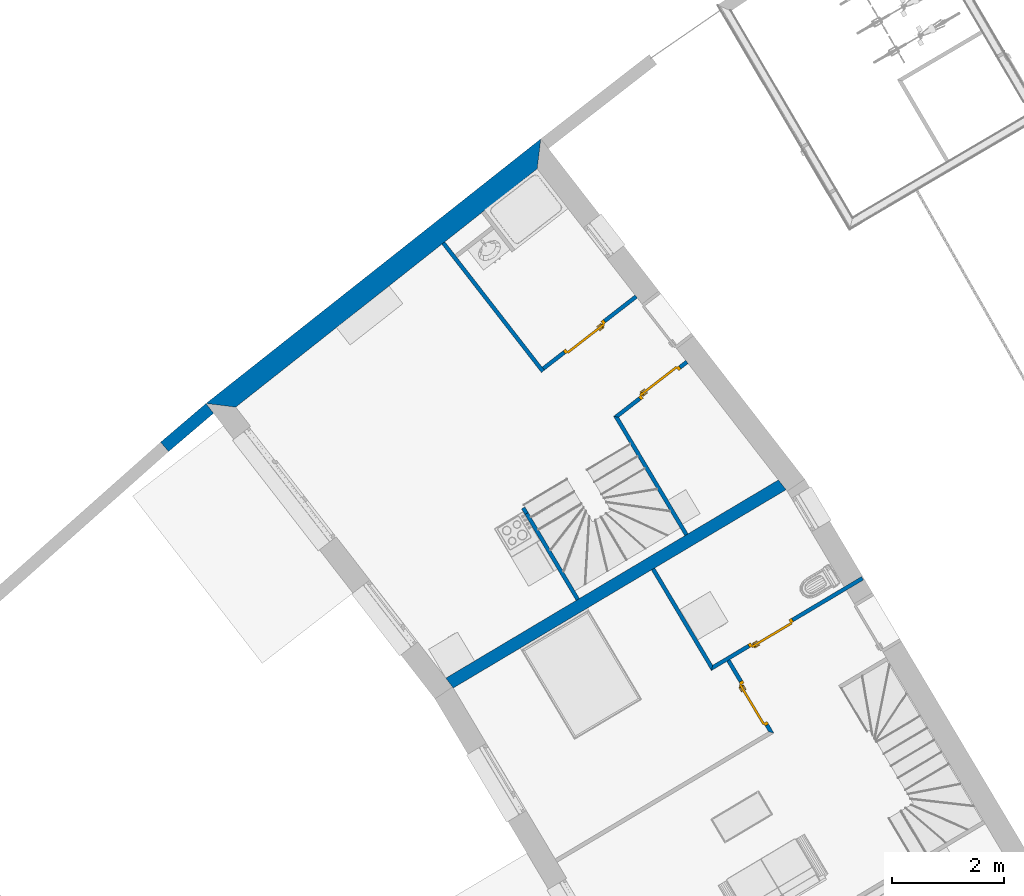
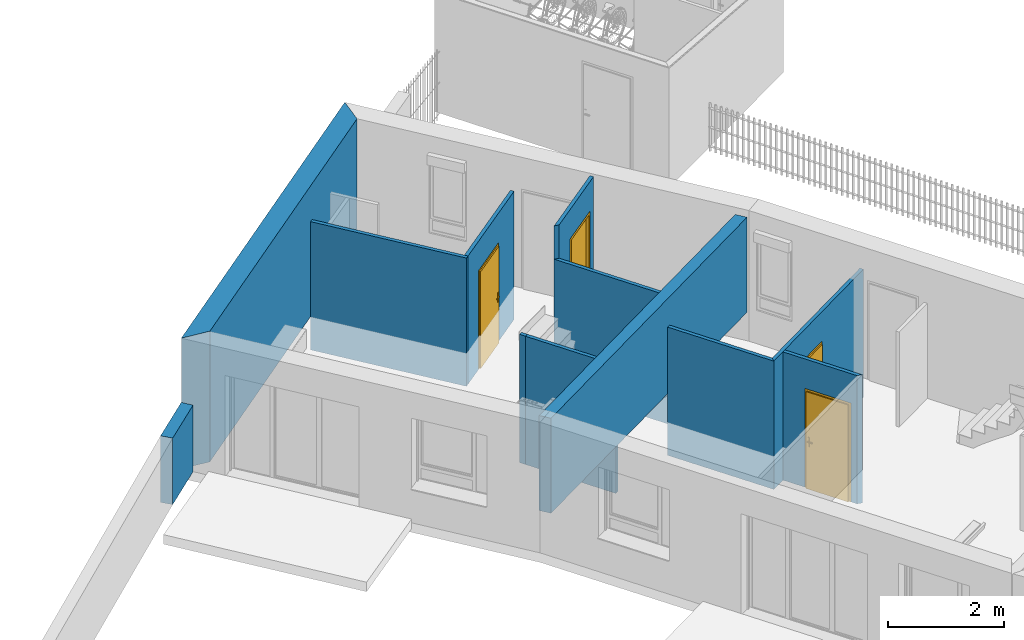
# One storey, part 43 of 195: 12 walls, 4 doors, 4 openings.
"""IFC2X3 building model written with IfcOpenShell, lengths in metres."""

from ifc_helpers import new_model, entity, si_unit, converted_unit, derived_unit, money_unit, direction, frame, origin_with_axes, origin_2d_with_axis, place, context, subcontext, project, spatial, polyline, rectangle, outline, extrude, faceted_brep, source, transform, mapped, material, layer, layer_set, layer_usage, type_object, element, fill, save


model = new_model("IFC2X3")

# Units and contexts
model_context = context("Model", 3, precision=1e-05, world=origin_with_axes(), true_north=direction((0.0, 1.0)))
body_context = subcontext(model_context, "Body", "Model", "MODEL_VIEW")
ifc_project = project(units=[si_unit("LENGTHUNIT", "METRE"), si_unit("AREAUNIT", "SQUARE_METRE"), si_unit("VOLUMEUNIT", "CUBIC_METRE"), converted_unit("PLANEANGLEUNIT", "DEGREE", entity("IfcPlaneAngleMeasure", 0.0174532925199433), si_unit("PLANEANGLEUNIT", "RADIAN"), dimensions=[0, 0, 0, 0, 0, 0, 0]), money_unit("CHF"), converted_unit("TIMEUNIT", "Year", entity("IfcTimeMeasure", 31557600.0), si_unit("TIMEUNIT", "SECOND"), dimensions=[0, 0, 1, 0, 0, 0, 0]), si_unit("MASSUNIT", "GRAM", prefix="KILO"), si_unit("THERMODYNAMICTEMPERATUREUNIT", "DEGREE_CELSIUS"), si_unit("LUMINOUSINTENSITYUNIT", "LUMEN"), si_unit("ENERGYUNIT", "JOULE", prefix="MEGA"), derived_unit("THERMALCONDUCTANCEUNIT", [(si_unit("POWERUNIT", "WATT"), 1), (si_unit("LENGTHUNIT", "METRE"), -1), (si_unit("THERMODYNAMICTEMPERATUREUNIT", "KELVIN"), -1)]), derived_unit("SPECIFICHEATCAPACITYUNIT", [(si_unit("ENERGYUNIT", "JOULE"), 1), (si_unit("MASSUNIT", "GRAM", prefix="KILO"), -1), (si_unit("THERMODYNAMICTEMPERATUREUNIT", "KELVIN"), -1)]), derived_unit("MASSDENSITYUNIT", [(si_unit("MASSUNIT", "GRAM", prefix="KILO"), 1), (si_unit("VOLUMEUNIT", "CUBIC_METRE"), -1)])], contexts=[model_context])

# Site, building, storey
site_placement = place(None, origin_with_axes())
site = spatial("IfcSite", under=ifc_project, at=site_placement, Name="Site", CompositionType="ELEMENT")
building_placement = place(site_placement, origin_with_axes())
building = spatial("IfcBuilding", under=site, at=building_placement, Name="Bâtiment", CompositionType="ELEMENT")
storey_placement = place(building_placement, origin_with_axes())
storey = spatial("IfcBuildingStorey", under=building, at=storey_placement, Name="rdc", CompositionType="ELEMENT", Elevation=0.0)

# Wall, opening, door
ifc_material_1 = material(Name="Hachure solide 268963992")
ifc_layer_1 = layer(ifc_material_1, 0.07, ventilated="UNKNOWN")
ifc_layer_set_1 = layer_set([ifc_layer_1], Name="Cloison 70 0826278243")
ifc_layer_usage_1 = layer_usage(ifc_layer_set_1, "AXIS2", "NEGATIVE", 0.0)
wall_type_1 = type_object("IfcWallType", Name="Cloison 70 0826278243 70", PredefinedType="NOTDEFINED")
wall_1_placement = place(storey_placement, frame((9541.640107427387, -1042.153181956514, 57.7), z_axis=(0.0, 0.0, 1.0), x_axis=(0.7902714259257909, 0.6127569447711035, 0.0)))
wall_1 = element("IfcWallStandardCase", 1, at=wall_1_placement, inside=storey, type_object=wall_type_1, material=ifc_layer_usage_1, Name="Mur-149", context=body_context, shape_type="SweptSolid", body=[
    extrude(outline(polyline([(0.06192714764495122, -0.06999999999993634), (1.632411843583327, -0.06999999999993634), (1.632411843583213, 0.0), (0.0, 0.0), (0.06192714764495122, -0.06999999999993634)])), origin_with_axes(), (0.0, 0.0, 1.0), 2.7),
])
opening_1_placement = place(wall_1_placement, frame((1.019052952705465, 0.0, 0.0), z_axis=(0.0, 0.0, 1.0), x_axis=(1.0, 0.0, 0.0)))
opening_1 = element("IfcOpeningElement", 2, at=opening_1_placement, cuts=wall_1, Name="Por-301", context=body_context, shape_type="SweptSolid", body=[
    extrude(rectangle(XDim=0.9099999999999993, YDim=2.079999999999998, at=origin_2d_with_axis()), frame((0.0, -0.07000000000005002, 1.039999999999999), z_axis=(0.0, 1.0, 0.0), x_axis=(1.0, 0.0, 0.0)), (0.0, 0.0, 1.0), 0.14),
])
door_style = type_object("IfcDoorStyle", Name="Porte_1v", ConstructionType="NOTDEFINED", OperationType="NOTDEFINED", ParameterTakesPrecedence=False, Sizeable=False)
shared_shape_1 = source(origin_with_axes(), body_context, "Body", "Brep", [
    faceted_brep([(0.455, 0.0, 0.0), (0.415, 0.0, 0.0), (0.415, 0.0, 2.04), (-0.415, 0.0, 2.04), (-0.415, 0.0, 0.0), (-0.455, 0.0, 0.0), (-0.455, 0.0, 2.08), (0.455, 0.0, 2.08), (0.455, -0.07, 0.0), (0.4, -0.07, 0.0), (0.4, -0.015, 0.0), (0.415, -0.015, 0.0), (0.415, -0.015, 2.04), (-0.415, -0.015, 2.04), (-0.415, -0.015, 0.0), (-0.4, -0.015, 0.0), (-0.4, -0.07, 0.0), (-0.455, -0.07, 0.0), (-0.455, -0.07, 2.08), (0.455, -0.07, 2.08), (-0.4, -0.07, 2.025), (0.4, -0.07, 2.025), (0.4, -0.015, 2.025), (-0.4, -0.015, 2.025)], [[[0, 1, 2, 3, 4, 5, 6, 7]], [[0, 8, 9, 10, 11, 1]], [[1, 11, 12, 2]], [[2, 12, 13, 3]], [[3, 13, 14, 4]], [[5, 4, 14, 15, 16, 17]], [[18, 6, 5, 17]], [[19, 7, 6, 18]], [[8, 0, 7, 19]], [[9, 8, 19, 18, 17, 16, 20, 21]], [[10, 9, 21, 22]], [[11, 10, 22, 23, 15, 14, 13, 12]], [[23, 20, 16, 15]], [[22, 21, 20, 23]]]),
    faceted_brep([(-0.35, -0.015, 0.9), (-0.39, -0.015, 0.9), (-0.39, -0.015, 1.1), (-0.35, -0.015, 1.1), (-0.35, -0.025, 0.9), (-0.39, -0.025, 0.9), (-0.39, -0.025, 1.1), (-0.35, -0.025, 1.1)], [[[0, 1, 2, 3]], [[1, 0, 4, 5]], [[2, 1, 5, 6]], [[3, 2, 6, 7]], [[0, 3, 7, 4]], [[5, 4, 7, 6]]]),
    faceted_brep([(-0.28, -0.025, 1.0), (-0.38, -0.025, 1.0), (-0.38, -0.025, 1.02), (-0.28, -0.025, 1.02), (-0.28, -0.045, 1.0), (-0.38, -0.045, 1.0), (-0.38, -0.045, 1.02), (-0.28, -0.045, 1.02)], [[[0, 1, 2, 3]], [[1, 0, 4, 5]], [[2, 1, 5, 6]], [[3, 2, 6, 7]], [[0, 3, 7, 4]], [[5, 4, 7, 6]]]),
    faceted_brep([(-0.35, 0.035, 0.9), (-0.39, 0.035, 0.9), (-0.39, 0.035, 1.1), (-0.35, 0.035, 1.1), (-0.35, 0.025, 0.9), (-0.39, 0.025, 0.9), (-0.39, 0.025, 1.1), (-0.35, 0.025, 1.1)], [[[0, 1, 2, 3]], [[1, 0, 4, 5]], [[2, 1, 5, 6]], [[3, 2, 6, 7]], [[0, 3, 7, 4]], [[5, 4, 7, 6]]]),
    faceted_brep([(-0.28, 0.05500000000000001, 1.0), (-0.38, 0.05500000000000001, 1.0), (-0.38, 0.05500000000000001, 1.02), (-0.28, 0.05500000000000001, 1.02), (-0.28, 0.035, 1.0), (-0.38, 0.035, 1.0), (-0.38, 0.035, 1.02), (-0.28, 0.035, 1.02)], [[[0, 1, 2, 3]], [[1, 0, 4, 5]], [[2, 1, 5, 6]], [[3, 2, 6, 7]], [[0, 3, 7, 4]], [[5, 4, 7, 6]]]),
    faceted_brep([(-0.415, 0.025, 0.0), (0.415, 0.025, 0.0), (0.415, -0.015, 0.0), (-0.415, -0.015, 0.0), (-0.415, 0.025, 2.04), (0.415, 0.025, 2.04), (0.415, -0.015, 2.04), (-0.415, -0.015, 2.04)], [[[0, 1, 2, 3]], [[0, 4, 5, 1]], [[1, 5, 6, 2]], [[3, 2, 6, 7]], [[4, 0, 3, 7]], [[5, 4, 7, 6]]]),
])
door_1_placement = place(opening_1_placement, frame((-0.4149999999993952, 0.0, 0.0), z_axis=(0.0, 0.0, 1.0), x_axis=(1.0, 0.0, 0.0)))
door_1 = element("IfcDoor", 3, at=door_1_placement, inside=storey, type_object=door_style, Name="Por-301", OverallHeight=2.04, OverallWidth=0.83, context=body_context, shape_type="MappedRepresentation", body=[
    mapped(shared_shape_1, transform((0.4150000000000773, 0.0, 0.0))),
])
fill(opening_1, door_1)

ifc_layer_usage_2 = layer_usage(ifc_layer_set_1, "AXIS2", "POSITIVE", 0.0)
wall_2_placement = place(storey_placement, frame((9542.323152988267, -1039.749911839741, 57.0), z_axis=(0.0, 0.0, 1.0), x_axis=(-0.7899554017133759, -0.6131643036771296, 0.0)))
wall_2 = element("IfcWallStandardCase", 4, at=wall_2_placement, inside=storey, type_object=wall_type_1, material=ifc_layer_usage_2, Name="Mur-149", context=body_context, shape_type="SweptSolid", body=[
    extrude(outline(polyline([(0.3800000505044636, 0.0), (2.483040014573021, 0.0), (2.4830400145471, 0.06999999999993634), (0.3800361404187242, 0.06999999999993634), (0.3800000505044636, 0.0)])), origin_with_axes(), (0.0, 0.0, 1.0), 2.7),
])
opening_2_placement = place(wall_2_placement, frame((1.552918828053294, 0.0, 0.0), z_axis=(0.0, 0.0, 1.0), x_axis=(1.0, 0.0, 0.0)))
opening_2 = element("IfcOpeningElement", 5, at=opening_2_placement, cuts=wall_2, Name="Por-299", context=body_context, shape_type="SweptSolid", body=[
    extrude(rectangle(XDim=0.9099999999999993, YDim=2.079999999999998, at=origin_2d_with_axis()), frame((0.0, -0.06999999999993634, 1.039999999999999), z_axis=(0.0, 1.0, 0.0), x_axis=(1.0, 0.0, 0.0)), (0.0, 0.0, 1.0), 0.14),
])
door_2_placement = place(opening_2_placement, frame((-0.4149999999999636, 0.0, 0.0), z_axis=(0.0, 0.0, 1.0), x_axis=(1.0, 0.0, 0.0)))
door_2 = element("IfcDoor", 6, at=door_2_placement, inside=storey, type_object=door_style, Name="Por-299", OverallHeight=2.04, OverallWidth=0.83, context=body_context, shape_type="MappedRepresentation", body=[
    mapped(shared_shape_1, transform((0.4150000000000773, 0.06999999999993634, 0.0))),
])
fill(opening_2, door_2)

# Walls
ifc_layer_usage_3 = layer_usage(ifc_layer_set_1, "AXIS2", "POSITIVE", 0.0)
wall_3_placement = place(storey_placement, frame((9540.404583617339, -1041.327720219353, 57.0), z_axis=(0.0, 0.0, 1.0), x_axis=(-0.6131643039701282, 0.7899554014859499, 0.0)))
element("IfcWallStandardCase", 7, at=wall_3_placement, inside=storey, type_object=wall_type_1, material=ifc_layer_usage_3, Name="Mur-149", context=body_context, shape_type="SweptSolid", body=[
    extrude(outline(polyline([(0.0, 0.0), (2.906014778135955, 0.0), (2.90540030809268, 0.07000000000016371), (0.0, 0.07000000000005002), (0.0, 0.0)])), origin_with_axes(), (0.0, 0.0, 1.0), 2.7),
])
ifc_layer_usage_4 = layer_usage(ifc_layer_set_1, "AXIS2", "NEGATIVE", 0.0)
wall_4_placement = place(storey_placement, frame((9540.053862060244, -1043.773236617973, 57.0), z_axis=(0.0, 0.0, 1.0), x_axis=(0.5118298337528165, -0.8590868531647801, 0.0)))
element("IfcWallStandardCase", 8, at=wall_4_placement, inside=storey, type_object=wall_type_1, material=ifc_layer_usage_4, Name="Mur-149", context=body_context, shape_type="SweptSolid", body=[
    extrude(outline(polyline([(0.0, -0.07000000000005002), (1.906688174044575, -0.07000000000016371), (1.906688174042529, 0.0), (0.0, 0.0), (0.0, -0.07000000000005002)])), origin_with_axes(), (0.0, 0.0, 1.0), 2.7),
])

# Wall, opening, door
ifc_layer_usage_5 = layer_usage(ifc_layer_set_1, "AXIS2", "NEGATIVE", 0.0)
wall_5_placement = place(storey_placement, frame((9546.108167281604, -1045.080472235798, 57.0), z_axis=(0.0, 0.0, 1.0), x_axis=(-0.8590868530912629, -0.5118298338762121, 0.0)))
wall_5 = element("IfcWallStandardCase", 9, at=wall_5_placement, inside=storey, type_object=wall_type_1, material=ifc_layer_usage_5, Name="Mur-149", context=body_context, shape_type="SweptSolid", body=[
    extrude(outline(polyline([(0.0, -0.06999999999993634), (3.095907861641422, -0.06999999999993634), (3.165907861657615, 0.0), (0.0, 0.0), (0.0, -0.06999999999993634)])), origin_with_axes(), (0.0, 0.0, 1.0), 2.7),
])
opening_3_placement = place(wall_5_placement, frame((1.909919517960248, 0.0, 0.0), z_axis=(0.0, 0.0, 1.0), x_axis=(1.0, 0.0, 0.0)))
opening_3 = element("IfcOpeningElement", 10, at=opening_3_placement, cuts=wall_5, Name="Por-286", context=body_context, shape_type="SweptSolid", body=[
    extrude(rectangle(XDim=0.9099999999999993, YDim=2.079999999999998, at=origin_2d_with_axis()), frame((0.0, -0.06999999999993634, 1.039999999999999), z_axis=(0.0, -1.0, 0.0), x_axis=(-1.0, 0.0, 0.0)), (0.0, 0.0, -1.0), 0.14),
])
shared_shape_2 = source(origin_with_axes(), body_context, "Body", "Brep", [
    faceted_brep([(-0.455, 0.0, 0.0), (-0.455, 0.0, 2.08), (0.455, 0.0, 2.08), (0.455, 0.0, 0.0), (0.415, 0.0, 0.0), (0.415, 0.0, 2.04), (-0.415, 0.0, 2.04), (-0.415, 0.0, 0.0), (-0.455, -0.07, 0.0), (-0.455, -0.07, 2.08), (0.455, -0.07, 2.08), (0.455, -0.07, 0.0), (0.4, -0.07, 0.0), (0.4, -0.015, 0.0), (0.415, -0.015, 0.0), (0.415, -0.015, 2.04), (-0.415, -0.015, 2.04), (-0.415, -0.015, 0.0), (-0.4, -0.015, 0.0), (-0.4, -0.07, 0.0), (-0.4, -0.07, 2.025), (0.4, -0.07, 2.025), (0.4, -0.015, 2.025), (-0.4, -0.015, 2.025)], [[[0, 1, 2, 3, 4, 5, 6, 7]], [[8, 9, 1, 0]], [[9, 10, 2, 1]], [[10, 11, 3, 2]], [[3, 11, 12, 13, 14, 4]], [[5, 4, 14, 15]], [[6, 5, 15, 16]], [[7, 6, 16, 17]], [[0, 7, 17, 18, 19, 8]], [[19, 20, 21, 12, 11, 10, 9, 8]], [[22, 13, 12, 21]], [[17, 16, 15, 14, 13, 22, 23, 18]], [[18, 23, 20, 19]], [[23, 22, 21, 20]]]),
    faceted_brep([(0.35, -0.015, 0.9), (0.35, -0.015, 1.1), (0.39, -0.015, 1.1), (0.39, -0.015, 0.9), (0.35, -0.025, 0.9), (0.35, -0.025, 1.1), (0.39, -0.025, 1.1), (0.39, -0.025, 0.9)], [[[0, 1, 2, 3]], [[0, 4, 5, 1]], [[1, 5, 6, 2]], [[2, 6, 7, 3]], [[3, 7, 4, 0]], [[7, 6, 5, 4]]]),
    faceted_brep([(0.28, -0.025, 1.0), (0.28, -0.025, 1.02), (0.38, -0.025, 1.02), (0.38, -0.025, 1.0), (0.28, -0.045, 1.0), (0.28, -0.045, 1.02), (0.38, -0.045, 1.02), (0.38, -0.045, 1.0)], [[[0, 1, 2, 3]], [[0, 4, 5, 1]], [[1, 5, 6, 2]], [[2, 6, 7, 3]], [[3, 7, 4, 0]], [[7, 6, 5, 4]]]),
    faceted_brep([(0.35, 0.035, 0.9), (0.35, 0.035, 1.1), (0.39, 0.035, 1.1), (0.39, 0.035, 0.9), (0.35, 0.025, 0.9), (0.35, 0.025, 1.1), (0.39, 0.025, 1.1), (0.39, 0.025, 0.9)], [[[0, 1, 2, 3]], [[0, 4, 5, 1]], [[1, 5, 6, 2]], [[2, 6, 7, 3]], [[3, 7, 4, 0]], [[7, 6, 5, 4]]]),
    faceted_brep([(0.28, 0.05500000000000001, 1.0), (0.28, 0.05500000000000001, 1.02), (0.38, 0.05500000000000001, 1.02), (0.38, 0.05500000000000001, 1.0), (0.28, 0.035, 1.0), (0.28, 0.035, 1.02), (0.38, 0.035, 1.02), (0.38, 0.035, 1.0)], [[[0, 1, 2, 3]], [[0, 4, 5, 1]], [[1, 5, 6, 2]], [[2, 6, 7, 3]], [[3, 7, 4, 0]], [[7, 6, 5, 4]]]),
    faceted_brep([(0.415, 0.025, 0.0), (0.415, -0.015, 0.0), (-0.415, -0.015, 0.0), (-0.415, 0.025, 0.0), (0.415, 0.025, 2.04), (0.415, -0.015, 2.04), (-0.415, -0.015, 2.04), (-0.415, 0.025, 2.04)], [[[0, 1, 2, 3]], [[4, 5, 1, 0]], [[1, 5, 6, 2]], [[3, 2, 6, 7]], [[0, 3, 7, 4]], [[7, 6, 5, 4]]]),
])
door_3_placement = place(opening_3_placement, frame((-0.4149999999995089, 0.0, 0.0), z_axis=(0.0, 0.0, 1.0), x_axis=(1.0, 0.0, 0.0)))
door_3 = element("IfcDoor", 11, at=door_3_placement, inside=storey, type_object=door_style, Name="Por-286", OverallHeight=2.04, OverallWidth=0.83, context=body_context, shape_type="MappedRepresentation", body=[
    mapped(shared_shape_2, transform((0.4150000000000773, 0.0, 0.0))),
])
fill(opening_3, door_3)

ifc_layer_usage_6 = layer_usage(ifc_layer_set_1, "AXIS2", "POSITIVE", 0.0)
wall_6_placement = place(storey_placement, frame((9544.507787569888, -1047.818109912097, 57.0), z_axis=(0.0, 0.0, 1.0), x_axis=(-0.5118298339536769, 0.8590868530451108, 0.0)))
wall_6 = element("IfcWallStandardCase", 12, at=wall_6_placement, inside=storey, type_object=wall_type_1, material=ifc_layer_usage_6, Name="Mur-149", context=body_context, shape_type="SweptSolid", body=[
    extrude(outline(polyline([(0.0, 0.0), (1.532746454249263, 0.0), (1.532746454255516, 0.07000000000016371), (0.07000000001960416, 0.07000000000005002), (0.0, 0.0)])), origin_with_axes(), (0.0, 0.0, 1.0), 2.7),
])
opening_4_placement = place(wall_6_placement, frame((0.6434157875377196, 0.0, 0.0), z_axis=(0.0, 0.0, 1.0), x_axis=(1.0, 0.0, 0.0)))
opening_4 = element("IfcOpeningElement", 13, at=opening_4_placement, cuts=wall_6, Name="Por-288", context=body_context, shape_type="SweptSolid", body=[
    extrude(rectangle(XDim=0.9099999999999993, YDim=2.079999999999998, at=origin_2d_with_axis()), frame((0.0, -0.07000000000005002, 1.039999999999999), z_axis=(0.0, -1.0, 0.0), x_axis=(-1.0, 0.0, 0.0)), (0.0, 0.0, -1.0), 0.14),
])
shared_shape_3 = source(origin_with_axes(), body_context, "Body", "Brep", [
    faceted_brep([(-0.455, 0.0, 0.0), (-0.455, 0.0, 2.08), (0.455, 0.0, 2.08), (0.455, 0.0, 0.0), (0.415, 0.0, 0.0), (0.4149999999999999, 0.0, 2.04), (-0.4149999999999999, 0.0, 2.04), (-0.415, 0.0, 0.0), (-0.455, -0.07, 0.0), (-0.455, -0.07, 2.08), (0.455, -0.07, 2.08), (0.455, -0.07, 0.0), (0.4, -0.07, 0.0), (0.4, -0.015, 0.0), (0.415, -0.015, 0.0), (0.4149999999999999, -0.015, 2.04), (-0.4149999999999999, -0.015, 2.04), (-0.415, -0.015, 0.0), (-0.4, -0.015, 0.0), (-0.4, -0.07, 0.0), (-0.4, -0.07, 2.025), (0.4, -0.07, 2.025), (0.4, -0.015, 2.025), (-0.4, -0.015, 2.025)], [[[0, 1, 2, 3, 4, 5, 6, 7]], [[8, 9, 1, 0]], [[9, 10, 2, 1]], [[10, 11, 3, 2]], [[3, 11, 12, 13, 14, 4]], [[5, 4, 14, 15]], [[6, 5, 15, 16]], [[7, 6, 16, 17]], [[0, 7, 17, 18, 19, 8]], [[19, 20, 21, 12, 11, 10, 9, 8]], [[22, 13, 12, 21]], [[17, 16, 15, 14, 13, 22, 23, 18]], [[18, 23, 20, 19]], [[23, 22, 21, 20]]]),
    faceted_brep([(0.35, -0.015, 0.9), (0.35, -0.015, 1.1), (0.39, -0.015, 1.1), (0.39, -0.015, 0.9), (0.35, -0.025, 0.9), (0.35, -0.025, 1.1), (0.39, -0.025, 1.1), (0.39, -0.025, 0.9)], [[[0, 1, 2, 3]], [[0, 4, 5, 1]], [[1, 5, 6, 2]], [[2, 6, 7, 3]], [[3, 7, 4, 0]], [[7, 6, 5, 4]]]),
    faceted_brep([(0.2799999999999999, -0.025, 1.0), (0.2799999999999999, -0.025, 1.02), (0.3799999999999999, -0.025, 1.02), (0.3799999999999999, -0.025, 1.0), (0.2799999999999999, -0.045, 1.0), (0.2799999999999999, -0.045, 1.02), (0.3799999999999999, -0.045, 1.02), (0.3799999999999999, -0.045, 1.0)], [[[0, 1, 2, 3]], [[0, 4, 5, 1]], [[1, 5, 6, 2]], [[2, 6, 7, 3]], [[3, 7, 4, 0]], [[7, 6, 5, 4]]]),
    faceted_brep([(0.35, 0.035, 0.9), (0.35, 0.035, 1.1), (0.39, 0.035, 1.1), (0.39, 0.035, 0.9), (0.35, 0.025, 0.9), (0.35, 0.025, 1.1), (0.39, 0.025, 1.1), (0.39, 0.025, 0.9)], [[[0, 1, 2, 3]], [[0, 4, 5, 1]], [[1, 5, 6, 2]], [[2, 6, 7, 3]], [[3, 7, 4, 0]], [[7, 6, 5, 4]]]),
    faceted_brep([(0.2799999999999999, 0.05500000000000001, 1.0), (0.2799999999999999, 0.05500000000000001, 1.02), (0.3799999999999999, 0.05500000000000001, 1.02), (0.3799999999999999, 0.05500000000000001, 1.0), (0.2799999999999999, 0.035, 1.0), (0.2799999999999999, 0.035, 1.02), (0.3799999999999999, 0.035, 1.02), (0.3799999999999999, 0.035, 1.0)], [[[0, 1, 2, 3]], [[0, 4, 5, 1]], [[1, 5, 6, 2]], [[2, 6, 7, 3]], [[3, 7, 4, 0]], [[7, 6, 5, 4]]]),
    faceted_brep([(0.415, 0.025, 0.0), (0.415, -0.015, 0.0), (-0.415, -0.015, 0.0), (-0.415, 0.025, 0.0), (0.415, 0.025, 2.04), (0.415, -0.015, 2.04), (-0.415, -0.015, 2.04), (-0.415, 0.025, 2.04)], [[[0, 1, 2, 3]], [[4, 5, 1, 0]], [[1, 5, 6, 2]], [[3, 2, 6, 7]], [[0, 3, 7, 4]], [[7, 6, 5, 4]]]),
])
door_4_placement = place(opening_4_placement, frame((-0.4149999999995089, 0.0, 0.0), z_axis=(0.0, 0.0, 1.0), x_axis=(1.0, 0.0, 0.0)))
door_4 = element("IfcDoor", 14, at=door_4_placement, inside=storey, type_object=door_style, Name="Por-288", OverallHeight=2.04, OverallWidth=0.83, context=body_context, shape_type="MappedRepresentation", body=[
    mapped(shared_shape_3, transform((0.4149999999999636, 0.07000000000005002, 0.0))),
])
fill(opening_4, door_4)

# Walls
ifc_layer_usage_7 = layer_usage(ifc_layer_set_1, "AXIS2", "POSITIVE", 0.0)
wall_7_placement = place(storey_placement, frame((9543.448513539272, -1046.665050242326, 57.0), z_axis=(0.0, 0.0, 1.0), x_axis=(-0.5118298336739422, 0.859086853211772, 0.0)))
element("IfcWallStandardCase", 15, at=wall_7_placement, inside=storey, type_object=wall_type_1, material=ifc_layer_usage_7, Name="Mur-149", context=body_context, shape_type="SweptSolid", body=[
    extrude(outline(polyline([(0.07000000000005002, 0.0), (2.095114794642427, 0.0), (2.095114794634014, 0.07000000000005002), (0.0, 0.07000000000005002), (0.07000000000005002, 0.0)])), origin_with_axes(), (0.0, 0.0, 1.0), 2.7),
])
ifc_layer_usage_8 = layer_usage(ifc_layer_set_1, "AXIS2", "POSITIVE", 0.0)
wall_8_placement = place(storey_placement, frame((9541.640107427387, -1042.153181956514, 57.0), z_axis=(0.0, 0.0, 1.0), x_axis=(0.5118298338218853, -0.85908685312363, 0.0)))
element("IfcWallStandardCase", 16, at=wall_8_placement, inside=storey, type_object=wall_type_1, material=ifc_layer_usage_8, Name="Mur-149", context=body_context, shape_type="SweptSolid", body=[
    extrude(outline(polyline([(0.0, 0.0), (2.48656813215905, 0.0), (2.486568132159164, 0.06999999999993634), (0.06192714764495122, 0.06999999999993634), (0.0, 0.0)])), origin_with_axes(), (0.0, 0.0, 1.0), 2.7),
])
ifc_layer_usage_9 = layer_usage(ifc_layer_set_1, "AXIS2", "NEGATIVE", 0.0)
wall_9_placement = place(storey_placement, frame((9540.114043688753, -1043.87424918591, 57.0), z_axis=(0.0, 0.0, 1.0), x_axis=(0.5118298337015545, -0.8590868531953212, 0.0)))
element("IfcWallStandardCase", 17, at=wall_9_placement, inside=storey, type_object=wall_type_1, material=ifc_layer_usage_9, Name="Mur-149", context=body_context, shape_type="SweptSolid", body=[
    extrude(outline(polyline([(0.0, -0.06999999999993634), (1.789106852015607, -0.07000000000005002), (1.789106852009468, 0.0), (0.0, 0.0), (0.0, -0.06999999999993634)])), origin_with_axes(), (0.0, 0.0, 1.0), 2.7),
])
ifc_material_2 = material(Name="Parpaing 312445824")
ifc_layer_2 = layer(ifc_material_2, 0.22, ventilated="UNKNOWN")
ifc_material_3 = material(Name="Isolant styromousse 301821074")
ifc_layer_3 = layer(ifc_material_3, 0.16, ventilated="UNKNOWN")
ifc_layer_set_2 = layer_set([ifc_layer_2, ifc_layer_3], Name="isol int 22+16 0836643197")
ifc_layer_usage_10 = layer_usage(ifc_layer_set_2, "AXIS2", "POSITIVE", 0.0)
wall_type_2 = type_object("IfcWallType", Name="isol int 22+16 0836643197 380", PredefinedType="NOTDEFINED")
wall_10_placement = place(storey_placement, frame((9540.339143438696, -1037.191138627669, 57.7), z_axis=(0.0, 0.0, 1.0), x_axis=(-0.7845427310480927, -0.6200747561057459, 0.0)))
element("IfcWallStandardCase", 18, at=wall_10_placement, inside=storey, type_object=wall_type_2, material=ifc_layer_usage_10, Name="Mur-113", context=body_context, shape_type="SweptSolid", body=[
    extrude(outline(polyline([(0.0, 0.0), (7.632717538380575, 0.0), (7.256232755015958, 0.3799999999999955), (0.3835480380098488, 0.3799999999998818), (0.0, 0.0)])), origin_with_axes(), (0.0, 0.0, 1.0), 2.75),
])
ifc_material_4 = material(Name="Parpaing 314940890")
ifc_layer_4 = layer(ifc_material_4, 0.22, ventilated="UNKNOWN")
ifc_layer_set_3 = layer_set([ifc_layer_4], Name="Beton  22 0836643197")
ifc_layer_usage_11 = layer_usage(ifc_layer_set_3, "AXIS2", "POSITIVE", 0.0)
wall_type_3 = type_object("IfcWallType", Name="Beton  22 0836643197 220", PredefinedType="NOTDEFINED")
wall_11_placement = place(storey_placement, frame((9538.44670253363, -1047.206277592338, 58.3), z_axis=(0.0, 0.0, 1.0), x_axis=(0.8590868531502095, 0.5118298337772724, 0.0)))
element("IfcWallStandardCase", 19, at=wall_11_placement, inside=storey, type_object=wall_type_3, material=ifc_layer_usage_11, Name="Mur-105", context=body_context, shape_type="SweptSolid", body=[
    extrude(outline(polyline([(0.3800000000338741, 0.0), (7.30690417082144, 0.0), (7.279878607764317, 0.2200000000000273), (0.3558308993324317, 0.2200000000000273), (0.3800000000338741, 0.0)])), origin_with_axes(), (0.0, 0.0, 1.0), 2.0),
])
ifc_material_5 = material(Name="Empty Fill 3000033799")
ifc_layer_5 = layer(ifc_material_5, 0.22, ventilated="UNKNOWN")
ifc_layer_set_4 = layer_set([ifc_layer_5], Name="acrotère 22")
ifc_layer_usage_12 = layer_usage(ifc_layer_set_4, "AXIS2", "POSITIVE", 0.0)
wall_type_4 = type_object("IfcWallType", Name="acrotère 22 220", PredefinedType="NOTDEFINED")
wall_12_placement = place(storey_placement, frame((9534.350950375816, -1041.923994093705, 57.7), z_axis=(0.0, 0.0, 1.0), x_axis=(-0.7609257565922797, -0.6488389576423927, 0.0)))
element("IfcWallStandardCase", 20, at=wall_12_placement, inside=storey, type_object=wall_type_4, material=ifc_layer_usage_12, Name="Mur-108", context=body_context, shape_type="SweptSolid", body=[
    extrude(outline(polyline([(0.0, 0.0), (1.067440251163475, 0.0), (1.065238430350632, 0.2199999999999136), (0.01024027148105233, 0.2199999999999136), (0.0, 0.0)])), origin_with_axes(), (0.0, 0.0, 1.0), 1.4),
])

save(model, "model.ifc")
